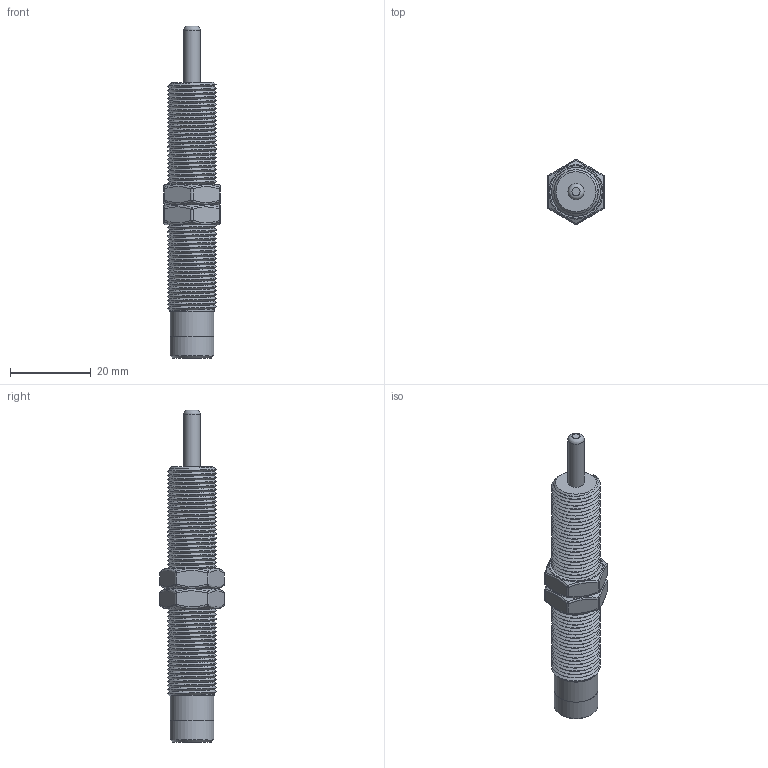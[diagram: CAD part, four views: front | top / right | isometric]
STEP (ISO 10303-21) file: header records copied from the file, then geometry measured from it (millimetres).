
FILE_DESCRIPTION(('STEP AP203'),'1');
FILE_NAME('C:/Documents and Settings/User/官帕 拳搁/鳖付蓖/权其捞瘤 KOBA 2D/KMA SERIES/KMA 3D/KMA12-14.stp',' ',(' '),(' '),'XStep 1.0',' ',' ');
FILE_SCHEMA(('CONFIG_CONTROL_DESIGN'));
Length unit declared in the file: metre
Products named in the file (1): Assembly153
Bounding box: 14 x 16.01 x 82 mm (x, y, z)
Volume: 8216 mm3; surface area: 9103.4 mm2
Topology: 7 solids, 7 shells, 108 faces, 206 edges, 113 vertices
Faces by surface type: plane 27, bspline 27, sphere 24, cylinder 19, cone 6, torus 5
Full cylindrical faces by diameter (mm): 4 x1, 10 x1, 10.8 x2, 10.918 x1, 11 x2
Entity records: 11969 total; most frequent: CARTESIAN_POINT 10013, DIRECTION 399, ORIENTED_EDGE 356, AXIS2_PLACEMENT_3D 186, EDGE_CURVE 178, EDGE_LOOP 131, FACE_OUTER_BOUND 120, ADVANCED_FACE 108
